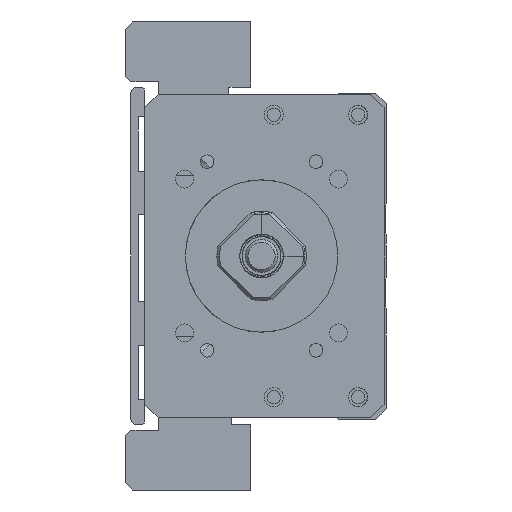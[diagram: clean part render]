
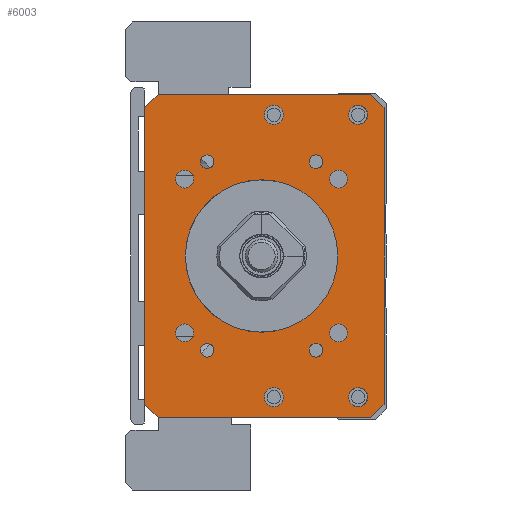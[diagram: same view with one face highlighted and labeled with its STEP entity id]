
A CAD part, left-side view. The second image highlights one B-rep face of the part: STEP entity #6003.
In plain terms, the highlighted planar face has unit normal (-1, 0, 0).
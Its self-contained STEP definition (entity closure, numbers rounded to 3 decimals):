
#4781=FACE_BOUND('',#7841,.T.);
#4782=FACE_BOUND('',#7842,.T.);
#4783=FACE_BOUND('',#7843,.T.);
#4784=FACE_BOUND('',#7844,.T.);
#4785=FACE_BOUND('',#7845,.T.);
#4786=FACE_BOUND('',#7846,.T.);
#4787=FACE_BOUND('',#7847,.T.);
#4788=FACE_BOUND('',#7848,.T.);
#4789=FACE_BOUND('',#7849,.T.);
#4790=FACE_BOUND('',#7850,.T.);
#4791=FACE_BOUND('',#7851,.T.);
#4792=FACE_BOUND('',#7852,.T.);
#4793=FACE_BOUND('',#7853,.T.);
#4794=FACE_BOUND('',#7854,.T.);
#5353=CIRCLE('',#16825,14.);
#5362=CIRCLE('',#16836,1.65);
#5363=CIRCLE('',#16837,1.65);
#5364=CIRCLE('',#16838,1.65);
#5365=CIRCLE('',#16839,1.65);
#5366=CIRCLE('',#16840,1.25);
#5367=CIRCLE('',#16841,1.75);
#5368=CIRCLE('',#16842,1.25);
#5369=CIRCLE('',#16843,1.75);
#5370=CIRCLE('',#16844,1.25);
#5371=CIRCLE('',#16845,1.75);
#5372=CIRCLE('',#16846,1.75);
#5373=CIRCLE('',#16847,1.25);
#6003=ADVANCED_FACE('',(#4781,#4782,#4783,#4784,#4785,#4786,#4787,#4788,
#4789,#4790,#4791,#4792,#4793,#4794),#6585,.F.);
#6585=PLANE('',#16848);
#7841=EDGE_LOOP('',(#10277));
#7842=EDGE_LOOP('',(#10278));
#7843=EDGE_LOOP('',(#10279));
#7844=EDGE_LOOP('',(#10280));
#7845=EDGE_LOOP('',(#10281));
#7846=EDGE_LOOP('',(#10282));
#7847=EDGE_LOOP('',(#10283));
#7848=EDGE_LOOP('',(#10284));
#7849=EDGE_LOOP('',(#10285));
#7850=EDGE_LOOP('',(#10286,#10287,#10288,#10289,#10290,#10291,#10292,#10293));
#7851=EDGE_LOOP('',(#10294));
#7852=EDGE_LOOP('',(#10295));
#7853=EDGE_LOOP('',(#10296));
#7854=EDGE_LOOP('',(#10297));
#10277=ORIENTED_EDGE('',*,*,#13604,.F.);
#10278=ORIENTED_EDGE('',*,*,#13605,.F.);
#10279=ORIENTED_EDGE('',*,*,#13606,.F.);
#10280=ORIENTED_EDGE('',*,*,#13607,.F.);
#10281=ORIENTED_EDGE('',*,*,#13608,.F.);
#10282=ORIENTED_EDGE('',*,*,#13609,.T.);
#10283=ORIENTED_EDGE('',*,*,#13610,.F.);
#10284=ORIENTED_EDGE('',*,*,#13611,.F.);
#10285=ORIENTED_EDGE('',*,*,#13612,.F.);
#10286=ORIENTED_EDGE('',*,*,#13601,.T.);
#10287=ORIENTED_EDGE('',*,*,#13613,.T.);
#10288=ORIENTED_EDGE('',*,*,#13614,.F.);
#10289=ORIENTED_EDGE('',*,*,#13615,.T.);
#10290=ORIENTED_EDGE('',*,*,#13616,.F.);
#10291=ORIENTED_EDGE('',*,*,#13617,.T.);
#10292=ORIENTED_EDGE('',*,*,#13618,.T.);
#10293=ORIENTED_EDGE('',*,*,#13619,.T.);
#10294=ORIENTED_EDGE('',*,*,#13620,.F.);
#10295=ORIENTED_EDGE('',*,*,#13621,.F.);
#10296=ORIENTED_EDGE('',*,*,#13622,.F.);
#10297=ORIENTED_EDGE('',*,*,#13581,.F.);
#12171=VERTEX_POINT('',#23464);
#12191=VERTEX_POINT('',#23524);
#12192=VERTEX_POINT('',#23526);
#12194=VERTEX_POINT('',#23532);
#12195=VERTEX_POINT('',#23534);
#12196=VERTEX_POINT('',#23536);
#12197=VERTEX_POINT('',#23538);
#12198=VERTEX_POINT('',#23540);
#12199=VERTEX_POINT('',#23542);
#12200=VERTEX_POINT('',#23544);
#12201=VERTEX_POINT('',#23546);
#12202=VERTEX_POINT('',#23548);
#12203=VERTEX_POINT('',#23550);
#12204=VERTEX_POINT('',#23552);
#12205=VERTEX_POINT('',#23554);
#12206=VERTEX_POINT('',#23556);
#12207=VERTEX_POINT('',#23558);
#12208=VERTEX_POINT('',#23560);
#12209=VERTEX_POINT('',#23563);
#12210=VERTEX_POINT('',#23565);
#12211=VERTEX_POINT('',#23567);
#13581=EDGE_CURVE('',#12171,#12171,#5353,.T.);
#13601=EDGE_CURVE('',#12192,#12191,#14893,.T.);
#13604=EDGE_CURVE('',#12194,#12194,#5362,.T.);
#13605=EDGE_CURVE('',#12195,#12195,#5363,.T.);
#13606=EDGE_CURVE('',#12196,#12196,#5364,.T.);
#13607=EDGE_CURVE('',#12197,#12197,#5365,.T.);
#13608=EDGE_CURVE('',#12198,#12198,#5366,.T.);
#13609=EDGE_CURVE('',#12199,#12199,#5367,.T.);
#13610=EDGE_CURVE('',#12200,#12200,#5368,.T.);
#13611=EDGE_CURVE('',#12201,#12201,#5369,.T.);
#13612=EDGE_CURVE('',#12202,#12202,#5370,.T.);
#13613=EDGE_CURVE('',#12191,#12203,#14895,.T.);
#13614=EDGE_CURVE('',#12204,#12203,#14896,.T.);
#13615=EDGE_CURVE('',#12204,#12205,#14897,.T.);
#13616=EDGE_CURVE('',#12206,#12205,#14898,.T.);
#13617=EDGE_CURVE('',#12206,#12207,#14899,.T.);
#13618=EDGE_CURVE('',#12207,#12208,#14900,.T.);
#13619=EDGE_CURVE('',#12208,#12192,#14901,.T.);
#13620=EDGE_CURVE('',#12209,#12209,#5371,.T.);
#13621=EDGE_CURVE('',#12210,#12210,#5372,.T.);
#13622=EDGE_CURVE('',#12211,#12211,#5373,.T.);
#14893=LINE('',#23525,#15864);
#14895=LINE('',#23549,#15866);
#14896=LINE('',#23551,#15867);
#14897=LINE('',#23553,#15868);
#14898=LINE('',#23555,#15869);
#14899=LINE('',#23557,#15870);
#14900=LINE('',#23559,#15871);
#14901=LINE('',#23561,#15872);
#15864=VECTOR('',#19436,1.);
#15866=VECTOR('',#19460,1.);
#15867=VECTOR('',#19461,1.);
#15868=VECTOR('',#19462,1.);
#15869=VECTOR('',#19463,1.);
#15870=VECTOR('',#19464,1.);
#15871=VECTOR('',#19465,1.);
#15872=VECTOR('',#19466,1.);
#16825=AXIS2_PLACEMENT_3D('',#23463,#19410,#19411);
#16836=AXIS2_PLACEMENT_3D('',#23531,#19442,#19443);
#16837=AXIS2_PLACEMENT_3D('',#23533,#19444,#19445);
#16838=AXIS2_PLACEMENT_3D('',#23535,#19446,#19447);
#16839=AXIS2_PLACEMENT_3D('',#23537,#19448,#19449);
#16840=AXIS2_PLACEMENT_3D('',#23539,#19450,#19451);
#16841=AXIS2_PLACEMENT_3D('',#23541,#19452,#19453);
#16842=AXIS2_PLACEMENT_3D('',#23543,#19454,#19455);
#16843=AXIS2_PLACEMENT_3D('',#23545,#19456,#19457);
#16844=AXIS2_PLACEMENT_3D('',#23547,#19458,#19459);
#16845=AXIS2_PLACEMENT_3D('',#23562,#19467,#19468);
#16846=AXIS2_PLACEMENT_3D('',#23564,#19469,#19470);
#16847=AXIS2_PLACEMENT_3D('',#23566,#19471,#19472);
#16848=AXIS2_PLACEMENT_3D('',#23568,#19473,#19474);
#19410=DIRECTION('',(-1.,0.,0.));
#19411=DIRECTION('',(0.,1.,0.));
#19436=DIRECTION('',(0.,0.,-1.));
#19442=DIRECTION('',(-1.,0.,0.));
#19443=DIRECTION('',(0.,0.,1.));
#19444=DIRECTION('',(-1.,0.,0.));
#19445=DIRECTION('',(0.,0.,1.));
#19446=DIRECTION('',(-1.,0.,0.));
#19447=DIRECTION('',(0.,0.,1.));
#19448=DIRECTION('',(-1.,0.,0.));
#19449=DIRECTION('',(0.,0.,1.));
#19450=DIRECTION('',(-1.,0.,0.));
#19451=DIRECTION('',(0.,1.,0.));
#19452=DIRECTION('',(1.,0.,0.));
#19453=DIRECTION('',(0.,0.,1.));
#19454=DIRECTION('',(-1.,0.,0.));
#19455=DIRECTION('',(0.,1.,0.));
#19456=DIRECTION('',(-1.,0.,0.));
#19457=DIRECTION('',(0.,0.,1.));
#19458=DIRECTION('',(-1.,0.,0.));
#19459=DIRECTION('',(0.,1.,0.));
#19460=DIRECTION('',(0.,-0.707,-0.707));
#19461=DIRECTION('',(0.,1.,0.));
#19462=DIRECTION('',(0.,-0.707,0.707));
#19463=DIRECTION('',(0.,0.,-1.));
#19464=DIRECTION('',(0.,0.707,0.707));
#19465=DIRECTION('',(0.,1.,0.));
#19466=DIRECTION('',(0.,0.707,-0.707));
#19467=DIRECTION('',(-1.,0.,0.));
#19468=DIRECTION('',(0.,0.,1.));
#19469=DIRECTION('',(-1.,0.,0.));
#19470=DIRECTION('',(0.,0.,1.));
#19471=DIRECTION('',(-1.,0.,0.));
#19472=DIRECTION('',(0.,1.,0.));
#19473=DIRECTION('',(1.,0.,0.));
#19474=DIRECTION('',(0.,1.,0.));
#23463=CARTESIAN_POINT('',(-211.,0.,-100.));
#23464=CARTESIAN_POINT('',(-211.,14.,-100.));
#23524=CARTESIAN_POINT('',(-211.,21.499,-127.25));
#23525=CARTESIAN_POINT('',(-211.,21.499,-70.25));
#23526=CARTESIAN_POINT('',(-211.,21.499,-72.75));
#23531=CARTESIAN_POINT('',(-211.,14.142,-85.858));
#23532=CARTESIAN_POINT('',(-211.,14.142,-84.208));
#23533=CARTESIAN_POINT('',(-211.,-14.142,-85.858));
#23534=CARTESIAN_POINT('',(-211.,-14.142,-84.208));
#23535=CARTESIAN_POINT('',(-211.,14.142,-114.142));
#23536=CARTESIAN_POINT('',(-211.,14.142,-112.492));
#23537=CARTESIAN_POINT('',(-211.,-14.142,-114.142));
#23538=CARTESIAN_POINT('',(-211.,-14.142,-112.492));
#23539=CARTESIAN_POINT('',(-211.,-10.,-117.321));
#23540=CARTESIAN_POINT('',(-211.,-8.75,-117.321));
#23541=CARTESIAN_POINT('',(-211.,-2.25,-125.936));
#23542=CARTESIAN_POINT('',(-211.,-2.25,-124.186));
#23543=CARTESIAN_POINT('',(-211.,10.,-82.679));
#23544=CARTESIAN_POINT('',(-211.,11.25,-82.679));
#23545=CARTESIAN_POINT('',(-211.,-2.25,-74.064));
#23546=CARTESIAN_POINT('',(-211.,-2.25,-72.314));
#23547=CARTESIAN_POINT('',(-211.,10.,-117.321));
#23548=CARTESIAN_POINT('',(-211.,11.25,-117.321));
#23549=CARTESIAN_POINT('',(-211.,18.999,-129.75));
#23550=CARTESIAN_POINT('',(-211.,18.999,-129.75));
#23551=CARTESIAN_POINT('',(-211.,-22.501,-129.75));
#23552=CARTESIAN_POINT('',(-211.,-20.001,-129.75));
#23553=CARTESIAN_POINT('',(-211.,-22.501,-127.25));
#23554=CARTESIAN_POINT('',(-211.,-22.501,-127.25));
#23555=CARTESIAN_POINT('',(-211.,-22.501,-70.25));
#23556=CARTESIAN_POINT('',(-211.,-22.501,-72.75));
#23557=CARTESIAN_POINT('',(-211.,-22.501,-72.75));
#23558=CARTESIAN_POINT('',(-211.,-20.001,-70.25));
#23559=CARTESIAN_POINT('',(-211.,-22.501,-70.25));
#23560=CARTESIAN_POINT('',(-211.,18.999,-70.25));
#23561=CARTESIAN_POINT('',(-211.,18.999,-70.25));
#23562=CARTESIAN_POINT('',(-211.,-17.75,-74.064));
#23563=CARTESIAN_POINT('',(-211.,-17.75,-72.314));
#23564=CARTESIAN_POINT('',(-211.,-17.75,-125.936));
#23565=CARTESIAN_POINT('',(-211.,-17.75,-124.186));
#23566=CARTESIAN_POINT('',(-211.,-10.,-82.679));
#23567=CARTESIAN_POINT('',(-211.,-8.75,-82.679));
#23568=CARTESIAN_POINT('',(-211.,-22.501,-70.25));
